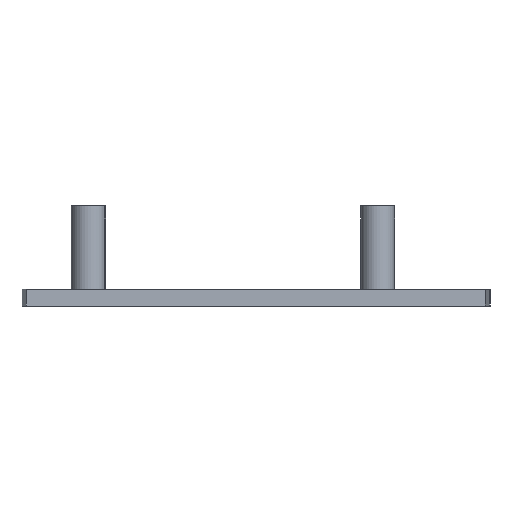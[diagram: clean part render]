
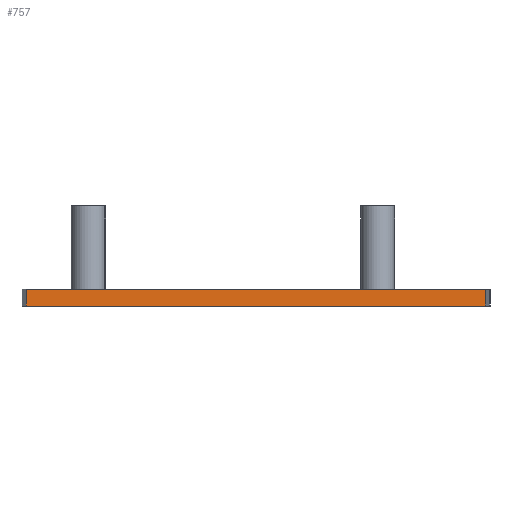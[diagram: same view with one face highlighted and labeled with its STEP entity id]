
A CAD part, left-side view. The second image highlights one B-rep face of the part: STEP entity #757.
In plain terms, the highlighted planar face has unit normal (-0.998, -0.071, 0).
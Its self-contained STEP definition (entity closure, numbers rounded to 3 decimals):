
#69=FACE_OUTER_BOUND('',#115,.T.);
#115=EDGE_LOOP('',(#661,#662,#663,#664));
#174=LINE('',#1141,#246);
#188=LINE('',#1202,#260);
#223=LINE('',#1292,#295);
#224=LINE('',#1294,#296);
#246=VECTOR('',#898,11.05);
#260=VECTOR('',#958,11.05);
#295=VECTOR('',#1059,11.05);
#296=VECTOR('',#1062,11.05);
#329=VERTEX_POINT('',#1138);
#330=VERTEX_POINT('',#1140);
#353=VERTEX_POINT('',#1199);
#354=VERTEX_POINT('',#1201);
#401=EDGE_CURVE('',#329,#330,#174,.T.);
#429=EDGE_CURVE('',#354,#353,#188,.T.);
#475=EDGE_CURVE('',#353,#330,#223,.T.);
#476=EDGE_CURVE('',#354,#329,#224,.T.);
#661=ORIENTED_EDGE('',*,*,#429,.T.);
#662=ORIENTED_EDGE('',*,*,#475,.T.);
#663=ORIENTED_EDGE('',*,*,#401,.F.);
#664=ORIENTED_EDGE('',*,*,#476,.F.);
#720=PLANE('',#849);
#757=ADVANCED_FACE('',(#69),#720,.T.);
#849=AXIS2_PLACEMENT_3D('',#1293,#1060,#1061);
#898=DIRECTION('',(-0.071,0.997,0.));
#958=DIRECTION('',(-0.071,0.997,0.));
#1059=DIRECTION('',(0.,0.,-1.));
#1060=DIRECTION('center_axis',(-0.997,-0.071,0.));
#1061=DIRECTION('ref_axis',(-0.071,0.997,0.));
#1062=DIRECTION('',(0.,0.,-1.));
#1138=CARTESIAN_POINT('',(-13.699,-18.484,-11.271));
#1140=CARTESIAN_POINT('',(-16.288,17.989,-11.271));
#1141=CARTESIAN_POINT('',(-16.288,17.989,-11.271));
#1199=CARTESIAN_POINT('',(-16.288,17.989,-9.945));
#1201=CARTESIAN_POINT('',(-13.699,-18.484,-9.945));
#1202=CARTESIAN_POINT('',(-14.317,-9.772,-9.945));
#1292=CARTESIAN_POINT('',(-16.288,17.989,-8.84));
#1293=CARTESIAN_POINT('Origin',(-13.699,-18.484,-8.84));
#1294=CARTESIAN_POINT('',(-13.699,-18.484,-8.84));
